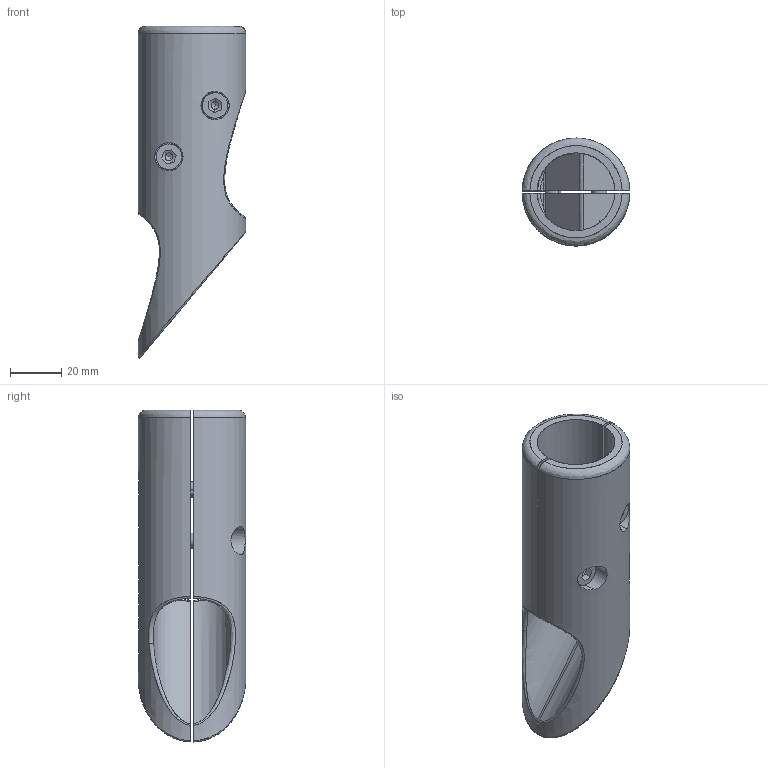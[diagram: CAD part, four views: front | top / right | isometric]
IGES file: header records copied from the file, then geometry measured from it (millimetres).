
Start section: SolidWorks IGES file using analytic representation for surfaces
Global section: file name: C:\Users\Gerard\OneDrive - Tecnodin, S.L\Escritorio\30 mm Verbinder im step. Format\31000410007.IGS; native system: SolidWorks 2016; preprocessor: SolidWorks 2016; author: Gerard; date: 240902.114522; units: millimetre
Bounding box: 41.99 x 42 x 129.49 mm (x, y, z)
Surface area: 27808.2 mm2 (no closed solid volume)
Topology: 0 solids, 0 shells, 96 faces, 1850 edges, 1842 vertices
Faces by surface type: revolution 50, bspline 46
